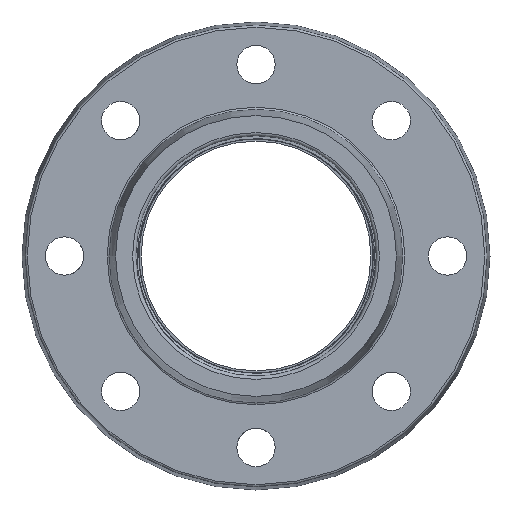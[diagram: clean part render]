
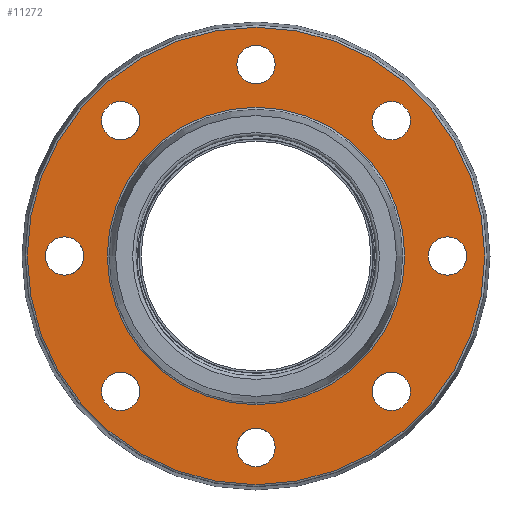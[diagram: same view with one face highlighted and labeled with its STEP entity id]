
A CAD part, left-side view. The second image highlights one B-rep face of the part: STEP entity #11272.
In plain terms, the highlighted planar face has unit normal (-1, 0, 0).
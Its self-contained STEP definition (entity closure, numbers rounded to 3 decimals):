
#75=FACE_BOUND('',#3008,.T.);
#76=FACE_BOUND('',#3009,.T.);
#77=FACE_BOUND('',#3010,.T.);
#78=FACE_BOUND('',#3011,.T.);
#79=FACE_BOUND('',#3012,.T.);
#80=FACE_BOUND('',#3013,.T.);
#81=FACE_BOUND('',#3014,.T.);
#82=FACE_BOUND('',#3015,.T.);
#83=FACE_BOUND('',#3016,.T.);
#233=PLANE('',#13281);
#2154=FACE_OUTER_BOUND('',#3007,.T.);
#3007=EDGE_LOOP('',(#10072));
#3008=EDGE_LOOP('',(#10073));
#3009=EDGE_LOOP('',(#10074));
#3010=EDGE_LOOP('',(#10075));
#3011=EDGE_LOOP('',(#10076));
#3012=EDGE_LOOP('',(#10077));
#3013=EDGE_LOOP('',(#10078));
#3014=EDGE_LOOP('',(#10079));
#3015=EDGE_LOOP('',(#10080));
#3016=EDGE_LOOP('',(#10081));
#4260=CIRCLE('',#13249,9.);
#4262=CIRCLE('',#13253,9.);
#4264=CIRCLE('',#13257,9.);
#4266=CIRCLE('',#13261,9.);
#4268=CIRCLE('',#13265,9.);
#4270=CIRCLE('',#13269,9.);
#4272=CIRCLE('',#13273,9.);
#4274=CIRCLE('',#13277,9.);
#4275=CIRCLE('',#13279,69.933);
#4277=CIRCLE('',#13282,107.532);
#5168=VERTEX_POINT('',#21427);
#5170=VERTEX_POINT('',#21451);
#5172=VERTEX_POINT('',#21475);
#5174=VERTEX_POINT('',#21499);
#5176=VERTEX_POINT('',#21523);
#5178=VERTEX_POINT('',#21547);
#5180=VERTEX_POINT('',#21571);
#5182=VERTEX_POINT('',#21595);
#5183=VERTEX_POINT('',#21598);
#5185=VERTEX_POINT('',#21603);
#6809=EDGE_CURVE('',#5168,#5168,#4260,.T.);
#6812=EDGE_CURVE('',#5170,#5170,#4262,.T.);
#6815=EDGE_CURVE('',#5172,#5172,#4264,.T.);
#6818=EDGE_CURVE('',#5174,#5174,#4266,.T.);
#6821=EDGE_CURVE('',#5176,#5176,#4268,.T.);
#6824=EDGE_CURVE('',#5178,#5178,#4270,.T.);
#6827=EDGE_CURVE('',#5180,#5180,#4272,.T.);
#6830=EDGE_CURVE('',#5182,#5182,#4274,.T.);
#6831=EDGE_CURVE('',#5183,#5183,#4275,.T.);
#6833=EDGE_CURVE('',#5185,#5185,#4277,.T.);
#10072=ORIENTED_EDGE('',*,*,#6833,.F.);
#10073=ORIENTED_EDGE('',*,*,#6812,.T.);
#10074=ORIENTED_EDGE('',*,*,#6815,.T.);
#10075=ORIENTED_EDGE('',*,*,#6818,.T.);
#10076=ORIENTED_EDGE('',*,*,#6821,.T.);
#10077=ORIENTED_EDGE('',*,*,#6824,.T.);
#10078=ORIENTED_EDGE('',*,*,#6827,.T.);
#10079=ORIENTED_EDGE('',*,*,#6830,.T.);
#10080=ORIENTED_EDGE('',*,*,#6809,.T.);
#10081=ORIENTED_EDGE('',*,*,#6831,.F.);
#11272=ADVANCED_FACE('',(#2154,#75,#76,#77,#78,#79,#80,#81,#82,#83),#233,
 .T.);
#13249=AXIS2_PLACEMENT_3D('',#21428,#17585,#17586);
#13253=AXIS2_PLACEMENT_3D('',#21452,#17593,#17594);
#13257=AXIS2_PLACEMENT_3D('',#21476,#17601,#17602);
#13261=AXIS2_PLACEMENT_3D('',#21500,#17609,#17610);
#13265=AXIS2_PLACEMENT_3D('',#21524,#17617,#17618);
#13269=AXIS2_PLACEMENT_3D('',#21548,#17625,#17626);
#13273=AXIS2_PLACEMENT_3D('',#21572,#17633,#17634);
#13277=AXIS2_PLACEMENT_3D('',#21596,#17641,#17642);
#13279=AXIS2_PLACEMENT_3D('',#21599,#17645,#17646);
#13281=AXIS2_PLACEMENT_3D('',#21602,#17649,#17650);
#13282=AXIS2_PLACEMENT_3D('',#21604,#17651,#17652);
#17585=DIRECTION('center_axis',(1.,0.,0.));
#17586=DIRECTION('ref_axis',(0.,0.,1.));
#17593=DIRECTION('center_axis',(1.,0.,0.));
#17594=DIRECTION('ref_axis',(0.,0.707,0.707));
#17601=DIRECTION('center_axis',(1.,0.,0.));
#17602=DIRECTION('ref_axis',(0.,1.,0.));
#17609=DIRECTION('center_axis',(1.,0.,0.));
#17610=DIRECTION('ref_axis',(0.,0.707,-0.707));
#17617=DIRECTION('center_axis',(1.,0.,0.));
#17618=DIRECTION('ref_axis',(0.,0.,-1.));
#17625=DIRECTION('center_axis',(1.,0.,0.));
#17626=DIRECTION('ref_axis',(0.,-0.707,-0.707));
#17633=DIRECTION('center_axis',(1.,0.,0.));
#17634=DIRECTION('ref_axis',(0.,-1.,0.));
#17641=DIRECTION('center_axis',(1.,0.,0.));
#17642=DIRECTION('ref_axis',(0.,-0.707,0.707));
#17645=DIRECTION('center_axis',(-1.,0.,0.));
#17646=DIRECTION('ref_axis',(0.,1.,0.));
#17649=DIRECTION('center_axis',(-1.,0.,0.));
#17650=DIRECTION('ref_axis',(0.,0.,1.));
#17651=DIRECTION('center_axis',(1.,0.,0.));
#17652=DIRECTION('ref_axis',(0.,1.,0.));
#21427=CARTESIAN_POINT('',(43.,90.,9.));
#21428=CARTESIAN_POINT('Origin',(43.,90.,0.));
#21451=CARTESIAN_POINT('',(43.,70.004,-57.276));
#21452=CARTESIAN_POINT('Origin',(43.,63.64,-63.64));
#21475=CARTESIAN_POINT('',(43.,9.,-90.));
#21476=CARTESIAN_POINT('Origin',(43.,0.,-90.));
#21499=CARTESIAN_POINT('',(43.,-57.276,-70.004));
#21500=CARTESIAN_POINT('Origin',(43.,-63.64,-63.64));
#21523=CARTESIAN_POINT('',(43.,-90.,-9.));
#21524=CARTESIAN_POINT('Origin',(43.,-90.,0.));
#21547=CARTESIAN_POINT('',(43.,-70.004,57.276));
#21548=CARTESIAN_POINT('Origin',(43.,-63.64,63.64));
#21571=CARTESIAN_POINT('',(43.,-9.,90.));
#21572=CARTESIAN_POINT('Origin',(43.,0.,90.));
#21595=CARTESIAN_POINT('',(43.,57.276,70.004));
#21596=CARTESIAN_POINT('Origin',(43.,63.64,63.64));
#21598=CARTESIAN_POINT('',(43.,-69.933,0.));
#21599=CARTESIAN_POINT('Origin',(43.,0.,0.));
#21602=CARTESIAN_POINT('Origin',(43.,-69.,0.));
#21603=CARTESIAN_POINT('',(43.,-107.532,0.));
#21604=CARTESIAN_POINT('Origin',(43.,0.,0.));
